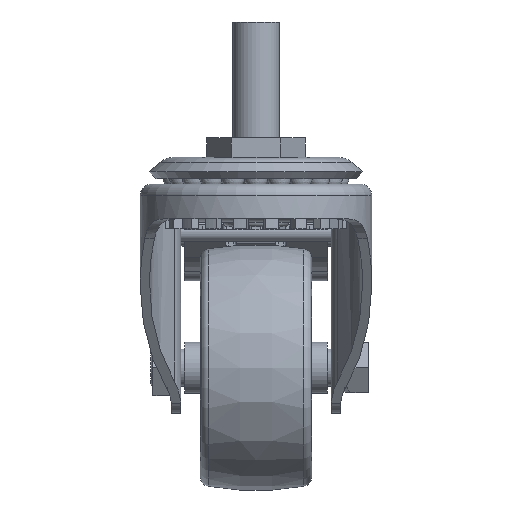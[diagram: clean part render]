
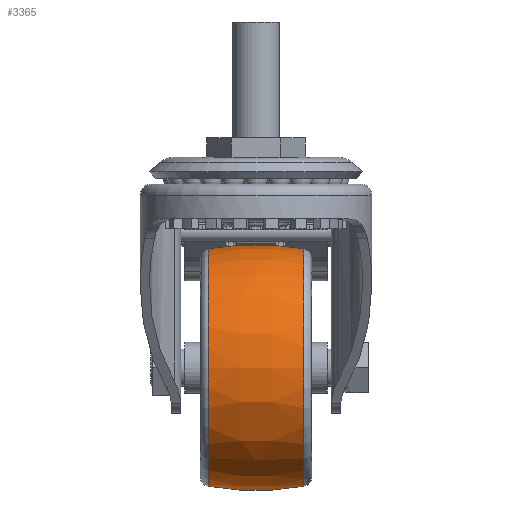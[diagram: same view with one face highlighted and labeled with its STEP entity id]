
A CAD part, left-side view. The second image highlights one B-rep face of the part: STEP entity #3365.
In plain terms, the highlighted free-form (B-spline) face has degree [3, 3] with [4, 7] control points.
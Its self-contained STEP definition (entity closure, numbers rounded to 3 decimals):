
#36=(
BOUNDED_SURFACE()
B_SPLINE_SURFACE(3,3,((#28349,#28350,#28351,#28352,#28353,#28354,#28355),
(#28356,#28357,#28358,#28359,#28360,#28361,#28362),(#28363,#28364,#28365,
#28366,#28367,#28368,#28369),(#28370,#28371,#28372,#28373,#28374,#28375,
#28376)),.UNSPECIFIED.,.F.,.T.,.F.)
B_SPLINE_SURFACE_WITH_KNOTS((4,4),(1,3,3,3,1),(0.,1.),(-0.5,0.,0.5,1.,1.5),
 .UNSPECIFIED.)
GEOMETRIC_REPRESENTATION_ITEM()
RATIONAL_B_SPLINE_SURFACE(((1.,0.333,0.333,1.,0.333,
0.333,1.),(0.99,0.33,0.33,
0.99,0.33,0.33,0.99),(0.99,
0.33,0.33,0.99,0.33,0.33,
0.99),(1.,0.333,0.333,1.,0.333,
0.333,1.)))
REPRESENTATION_ITEM('')
SURFACE()
);
#2640=FACE_BOUND('',#4881,.T.);
#2641=FACE_BOUND('',#4882,.T.);
#3365=ADVANCED_FACE('',(#2640,#2641),#36,.T.);
#4881=EDGE_LOOP('',(#9178));
#4882=EDGE_LOOP('',(#9179));
#9178=ORIENTED_EDGE('',*,*,#12496,.T.);
#9179=ORIENTED_EDGE('',*,*,#12497,.T.);
#10580=VERTEX_POINT('',#28346);
#10581=VERTEX_POINT('',#28348);
#12496=EDGE_CURVE('',#10580,#10580,#13017,.T.);
#12497=EDGE_CURVE('',#10581,#10581,#13018,.T.);
#13017=CIRCLE('',#14266,25.601);
#13018=CIRCLE('',#14267,25.601);
#14266=AXIS2_PLACEMENT_3D('',#28345,#17601,#17602);
#14267=AXIS2_PLACEMENT_3D('',#28347,#17603,#17604);
#17601=DIRECTION('',(0.,1.,0.));
#17602=DIRECTION('',(1.,0.,0.));
#17603=DIRECTION('',(0.,-1.,0.));
#17604=DIRECTION('',(-1.,0.,0.));
#28345=CARTESIAN_POINT('',(26.,-10.345,-74.6));
#28346=CARTESIAN_POINT('',(51.601,-10.345,-74.6));
#28347=CARTESIAN_POINT('',(26.,10.345,-74.6));
#28348=CARTESIAN_POINT('',(0.399,10.345,-74.6));
#28349=CARTESIAN_POINT('',(0.399,-10.345,-74.6));
#28350=CARTESIAN_POINT('',(0.399,-10.345,-125.803));
#28351=CARTESIAN_POINT('',(51.601,-10.345,-125.803));
#28352=CARTESIAN_POINT('',(51.601,-10.345,-74.6));
#28353=CARTESIAN_POINT('',(51.601,-10.345,-23.397));
#28354=CARTESIAN_POINT('',(0.399,-10.345,-23.397));
#28355=CARTESIAN_POINT('',(0.399,-10.345,-74.6));
#28356=CARTESIAN_POINT('',(-0.803,-3.483,-74.6));
#28357=CARTESIAN_POINT('',(-0.803,-3.483,-128.205));
#28358=CARTESIAN_POINT('',(52.803,-3.483,-128.205));
#28359=CARTESIAN_POINT('',(52.803,-3.483,-74.6));
#28360=CARTESIAN_POINT('',(52.803,-3.483,-20.995));
#28361=CARTESIAN_POINT('',(-0.803,-3.483,-20.995));
#28362=CARTESIAN_POINT('',(-0.803,-3.483,-74.6));
#28363=CARTESIAN_POINT('',(-0.803,3.483,-74.6));
#28364=CARTESIAN_POINT('',(-0.803,3.483,-128.205));
#28365=CARTESIAN_POINT('',(52.803,3.483,-128.205));
#28366=CARTESIAN_POINT('',(52.803,3.483,-74.6));
#28367=CARTESIAN_POINT('',(52.803,3.483,-20.995));
#28368=CARTESIAN_POINT('',(-0.803,3.483,-20.995));
#28369=CARTESIAN_POINT('',(-0.803,3.483,-74.6));
#28370=CARTESIAN_POINT('',(0.399,10.345,-74.6));
#28371=CARTESIAN_POINT('',(0.399,10.345,-125.803));
#28372=CARTESIAN_POINT('',(51.601,10.345,-125.803));
#28373=CARTESIAN_POINT('',(51.601,10.345,-74.6));
#28374=CARTESIAN_POINT('',(51.601,10.345,-23.397));
#28375=CARTESIAN_POINT('',(0.399,10.345,-23.397));
#28376=CARTESIAN_POINT('',(0.399,10.345,-74.6));
